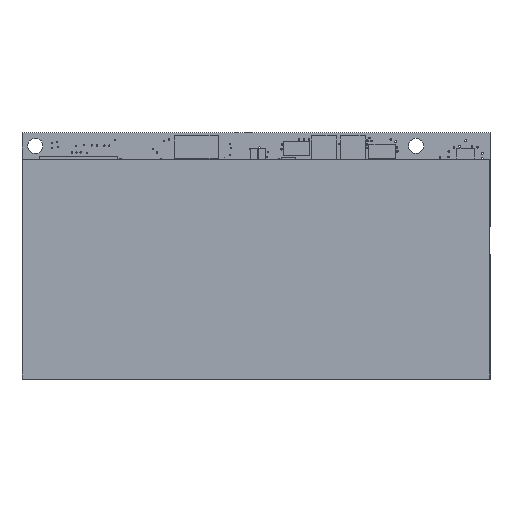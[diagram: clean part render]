
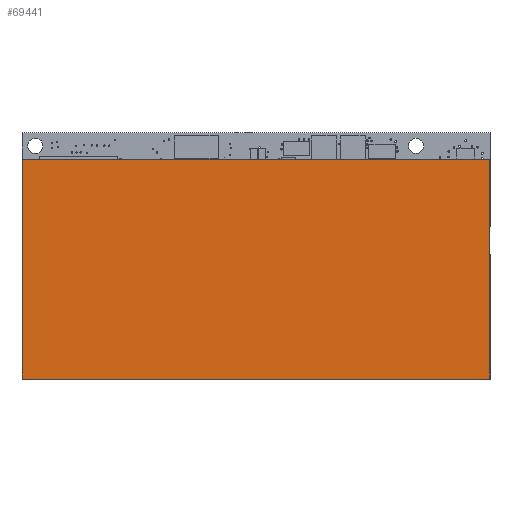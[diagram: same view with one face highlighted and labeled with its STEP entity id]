
A CAD part, top view. The second image highlights one B-rep face of the part: STEP entity #69441.
In plain terms, the highlighted planar face has unit normal (0, 0, 1).
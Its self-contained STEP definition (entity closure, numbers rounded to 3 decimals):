
#20346 = LINE ( 'NONE', #23880, #58685 ) ;
#20350 = LINE ( 'NONE', #23888, #58694 ) ;
#20353 = LINE ( 'NONE', #23894, #58702 ) ;
#20355 = LINE ( 'NONE', #23898, #58706 ) ;
#23880 = CARTESIAN_POINT ( 'NONE',  ( 0., 31.75, 4.016 ) ) ;
#23881 = DIRECTION ( 'NONE',  ( 0., -1., 0. ) ) ;
#23888 = CARTESIAN_POINT ( 'NONE',  ( 0., 0., 4.016 ) ) ;
#23889 = DIRECTION ( 'NONE',  ( 1., 0., 0. ) ) ;
#23894 = CARTESIAN_POINT ( 'NONE',  ( 67.6, 0., 4.016 ) ) ;
#23895 = DIRECTION ( 'NONE',  ( 0., 1., 0. ) ) ;
#23898 = CARTESIAN_POINT ( 'NONE',  ( 67.6, 31.75, 4.016 ) ) ;
#23899 = DIRECTION ( 'NONE',  ( -1., 0., 0. ) ) ;
#46436 = EDGE_CURVE ( 'NONE', #95993, #95991, #20346, .T. ) ;
#46440 = EDGE_CURVE ( 'NONE', #95991, #95997, #20350, .T. ) ;
#46443 = EDGE_CURVE ( 'NONE', #95997, #96001, #20353, .T. ) ;
#46445 = EDGE_CURVE ( 'NONE', #96001, #95993, #20355, .T. ) ;
#48004 = PLANE ( 'NONE',  #50025 ) ;
#48005 = CARTESIAN_POINT ( 'NONE',  ( 0., 0., 4.016 ) ) ;
#48006 = DIRECTION ( 'NONE',  ( 0., 0., 1. ) ) ;
#48007 = DIRECTION ( 'NONE',  ( 1., 0., 0. ) ) ;
#48829 = FACE_OUTER_BOUND ( 'NONE', #54641, .T. ) ;
#50025 = AXIS2_PLACEMENT_3D ( 'NONE', #48005, #48006, #48007 ) ;
#54641 = EDGE_LOOP ( 'NONE', ( #109207, #109209, #109210, #109205 ) ) ;
#58685 = VECTOR ( 'NONE', #23881, 1000. ) ;
#58694 = VECTOR ( 'NONE', #23889, 1000. ) ;
#58702 = VECTOR ( 'NONE', #23895, 1000. ) ;
#58706 = VECTOR ( 'NONE', #23899, 1000. ) ;
#69441 = ADVANCED_FACE ( 'NONE', ( #48829 ), #48004, .T. ) ;
#75888 = CARTESIAN_POINT ( 'NONE',  ( 0., 0., 4.016 ) ) ;
#75889 = CARTESIAN_POINT ( 'NONE',  ( 0., 31.75, 4.016 ) ) ;
#75891 = CARTESIAN_POINT ( 'NONE',  ( 67.6, 0., 4.016 ) ) ;
#75893 = CARTESIAN_POINT ( 'NONE',  ( 67.6, 31.75, 4.016 ) ) ;
#95991 = VERTEX_POINT ( 'NONE', #75888 ) ;
#95993 = VERTEX_POINT ( 'NONE', #75889 ) ;
#95997 = VERTEX_POINT ( 'NONE', #75891 ) ;
#96001 = VERTEX_POINT ( 'NONE', #75893 ) ;
#109205 = ORIENTED_EDGE ( 'NONE', *, *, #46445, .T. ) ;
#109207 = ORIENTED_EDGE ( 'NONE', *, *, #46436, .T. ) ;
#109209 = ORIENTED_EDGE ( 'NONE', *, *, #46440, .T. ) ;
#109210 = ORIENTED_EDGE ( 'NONE', *, *, #46443, .T. ) ;
